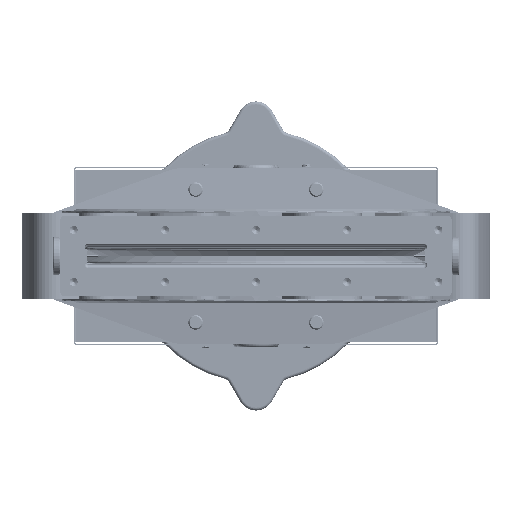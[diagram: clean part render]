
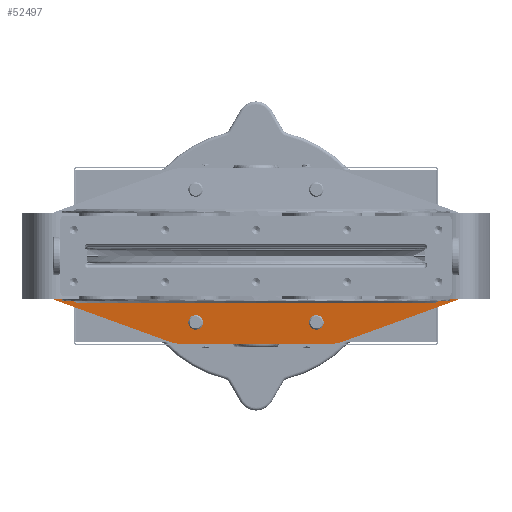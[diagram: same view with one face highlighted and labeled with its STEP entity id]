
A CAD part, front view. The second image highlights one B-rep face of the part: STEP entity #52497.
In plain terms, the highlighted planar face has unit normal (0, -0.996, -0.087).
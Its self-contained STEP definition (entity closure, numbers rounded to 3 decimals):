
#788=ELLIPSE('',#57474,38.145,38.);
#789=ELLIPSE('',#57475,38.145,38.);
#790=ELLIPSE('',#57476,15.057,15.);
#791=ELLIPSE('',#57477,15.057,15.);
#792=ELLIPSE('',#57478,15.057,15.);
#793=ELLIPSE('',#57479,15.057,15.);
#794=ELLIPSE('',#57480,6.023,6.);
#795=ELLIPSE('',#57481,6.544,6.494);
#796=ELLIPSE('',#57482,6.023,6.);
#797=ELLIPSE('',#57483,6.544,6.494);
#1761=B_SPLINE_CURVE_WITH_KNOTS('',3,(#96685,#96686,#96687,#96688,#96689,
#96690),.UNSPECIFIED.,.F.,.F.,(4,2,4),(8.437,8.468,
8.474),.UNSPECIFIED.);
#1762=B_SPLINE_CURVE_WITH_KNOTS('',3,(#96698,#96699,#96700,#96701,#96702,
#96703),.UNSPECIFIED.,.F.,.F.,(4,2,4),(20.094,20.1,
20.131),.UNSPECIFIED.);
#2256=FACE_BOUND('',#9582,.T.);
#2257=FACE_BOUND('',#9583,.T.);
#3368=PLANE('',#57473);
#6171=FACE_OUTER_BOUND('',#9581,.T.);
#9581=EDGE_LOOP('',(#40983,#40984,#40985,#40986,#40987,#40988,#40989,#40990,
#40991,#40992,#40993,#40994,#40995,#40996,#40997,#40998));
#9582=EDGE_LOOP('',(#40999,#41000));
#9583=EDGE_LOOP('',(#41001,#41002));
#12680=LINE('',#95216,#15393);
#12685=LINE('',#95226,#15398);
#12688=LINE('',#95234,#15401);
#12865=LINE('',#96592,#15578);
#12884=LINE('',#96694,#15597);
#12885=LINE('',#96704,#15598);
#12886=LINE('',#96709,#15599);
#12887=LINE('',#96713,#15600);
#15393=VECTOR('',#67881,1.);
#15398=VECTOR('',#67888,1.);
#15401=VECTOR('',#67895,1.);
#15578=VECTOR('',#68502,1.);
#15597=VECTOR('',#68583,1.);
#15598=VECTOR('',#68586,1.);
#15599=VECTOR('',#68591,1.);
#15600=VECTOR('',#68594,1.);
#23284=VERTEX_POINT('',#95213);
#23285=VERTEX_POINT('',#95215);
#23288=VERTEX_POINT('',#95223);
#23289=VERTEX_POINT('',#95225);
#23292=VERTEX_POINT('',#95232);
#23633=VERTEX_POINT('',#96590);
#23634=VERTEX_POINT('',#96591);
#23665=VERTEX_POINT('',#96684);
#23666=VERTEX_POINT('',#96691);
#23667=VERTEX_POINT('',#96693);
#23668=VERTEX_POINT('',#96695);
#23669=VERTEX_POINT('',#96697);
#23670=VERTEX_POINT('',#96706);
#23671=VERTEX_POINT('',#96708);
#23672=VERTEX_POINT('',#96710);
#23673=VERTEX_POINT('',#96712);
#23674=VERTEX_POINT('',#96715);
#23675=VERTEX_POINT('',#96716);
#23676=VERTEX_POINT('',#96719);
#23677=VERTEX_POINT('',#96720);
#29521=EDGE_CURVE('',#23285,#23284,#12680,.T.);
#29526=EDGE_CURVE('',#23288,#23289,#12685,.T.);
#29530=EDGE_CURVE('',#23292,#23288,#12688,.T.);
#29896=EDGE_CURVE('',#23633,#23634,#12865,.F.);
#29935=EDGE_CURVE('',#23292,#23665,#1761,.T.);
#29936=EDGE_CURVE('',#23665,#23666,#788,.F.);
#29937=EDGE_CURVE('',#23666,#23667,#12884,.T.);
#29938=EDGE_CURVE('',#23667,#23668,#789,.F.);
#29939=EDGE_CURVE('',#23668,#23669,#1762,.T.);
#29940=EDGE_CURVE('',#23285,#23669,#12885,.T.);
#29941=EDGE_CURVE('',#23284,#23633,#790,.T.);
#29942=EDGE_CURVE('',#23634,#23670,#791,.T.);
#29943=EDGE_CURVE('',#23670,#23671,#12886,.T.);
#29944=EDGE_CURVE('',#23671,#23672,#792,.T.);
#29945=EDGE_CURVE('',#23672,#23673,#12887,.F.);
#29946=EDGE_CURVE('',#23673,#23289,#793,.T.);
#29947=EDGE_CURVE('',#23674,#23675,#794,.T.);
#29948=EDGE_CURVE('',#23675,#23674,#795,.T.);
#29949=EDGE_CURVE('',#23676,#23677,#796,.T.);
#29950=EDGE_CURVE('',#23677,#23676,#797,.T.);
#40983=ORIENTED_EDGE('',*,*,#29530,.F.);
#40984=ORIENTED_EDGE('',*,*,#29935,.T.);
#40985=ORIENTED_EDGE('',*,*,#29936,.T.);
#40986=ORIENTED_EDGE('',*,*,#29937,.T.);
#40987=ORIENTED_EDGE('',*,*,#29938,.T.);
#40988=ORIENTED_EDGE('',*,*,#29939,.T.);
#40989=ORIENTED_EDGE('',*,*,#29940,.F.);
#40990=ORIENTED_EDGE('',*,*,#29521,.T.);
#40991=ORIENTED_EDGE('',*,*,#29941,.T.);
#40992=ORIENTED_EDGE('',*,*,#29896,.T.);
#40993=ORIENTED_EDGE('',*,*,#29942,.T.);
#40994=ORIENTED_EDGE('',*,*,#29943,.T.);
#40995=ORIENTED_EDGE('',*,*,#29944,.T.);
#40996=ORIENTED_EDGE('',*,*,#29945,.T.);
#40997=ORIENTED_EDGE('',*,*,#29946,.T.);
#40998=ORIENTED_EDGE('',*,*,#29526,.F.);
#40999=ORIENTED_EDGE('',*,*,#29947,.T.);
#41000=ORIENTED_EDGE('',*,*,#29948,.T.);
#41001=ORIENTED_EDGE('',*,*,#29949,.T.);
#41002=ORIENTED_EDGE('',*,*,#29950,.T.);
#52497=ADVANCED_FACE('',(#6171,#2256,#2257),#3368,.T.);
#57473=AXIS2_PLACEMENT_3D('',#96683,#68579,#68580);
#57474=AXIS2_PLACEMENT_3D('',#96692,#68581,#68582);
#57475=AXIS2_PLACEMENT_3D('',#96696,#68584,#68585);
#57476=AXIS2_PLACEMENT_3D('',#96705,#68587,#68588);
#57477=AXIS2_PLACEMENT_3D('',#96707,#68589,#68590);
#57478=AXIS2_PLACEMENT_3D('',#96711,#68592,#68593);
#57479=AXIS2_PLACEMENT_3D('',#96714,#68595,#68596);
#57480=AXIS2_PLACEMENT_3D('',#96717,#68597,#68598);
#57481=AXIS2_PLACEMENT_3D('',#96718,#68599,#68600);
#57482=AXIS2_PLACEMENT_3D('',#96721,#68601,#68602);
#57483=AXIS2_PLACEMENT_3D('',#96722,#68603,#68604);
#67881=DIRECTION('',(0.,0.087,-0.996));
#67888=DIRECTION('',(0.,0.087,-0.996));
#67895=DIRECTION('',(1.,0.,0.));
#68502=DIRECTION('',(-0.939,-0.03,0.342));
#68579=DIRECTION('center_axis',(0.,-0.996,-0.087));
#68580=DIRECTION('ref_axis',(0.,-0.087,0.996));
#68581=DIRECTION('center_axis',(0.,-0.996,-0.087));
#68582=DIRECTION('ref_axis',(0.,-0.087,0.996));
#68583=DIRECTION('',(-1.,0.,0.));
#68584=DIRECTION('center_axis',(0.,-0.996,-0.087));
#68585=DIRECTION('ref_axis',(0.,-0.087,0.996));
#68586=DIRECTION('',(1.,0.,0.));
#68587=DIRECTION('center_axis',(0.,-0.996,-0.087));
#68588=DIRECTION('ref_axis',(0.,-0.087,0.996));
#68589=DIRECTION('center_axis',(0.,-0.996,-0.087));
#68590=DIRECTION('ref_axis',(0.,0.087,-0.996));
#68591=DIRECTION('',(1.,0.,0.));
#68592=DIRECTION('center_axis',(0.,-0.996,-0.087));
#68593=DIRECTION('ref_axis',(0.,-0.087,0.996));
#68594=DIRECTION('',(-0.939,0.03,-0.342));
#68595=DIRECTION('center_axis',(0.,-0.996,-0.087));
#68596=DIRECTION('ref_axis',(0.,0.087,-0.996));
#68597=DIRECTION('center_axis',(0.,0.996,0.087));
#68598=DIRECTION('ref_axis',(0.,-0.087,0.996));
#68599=DIRECTION('center_axis',(0.,0.996,0.087));
#68600=DIRECTION('ref_axis',(0.,-0.087,
0.996));
#68601=DIRECTION('center_axis',(0.,0.996,0.087));
#68602=DIRECTION('ref_axis',(0.,-0.087,0.996));
#68603=DIRECTION('center_axis',(0.,0.996,0.087));
#68604=DIRECTION('ref_axis',(0.,-0.087,
0.996));
#95213=CARTESIAN_POINT('',(-177.,217.594,-22.142));
#95215=CARTESIAN_POINT('',(-177.,217.,-15.35));
#95216=CARTESIAN_POINT('',(-177.,222.137,-74.063));
#95223=CARTESIAN_POINT('',(177.,217.,-15.35));
#95225=CARTESIAN_POINT('',(177.,217.594,-22.142));
#95226=CARTESIAN_POINT('',(177.,217.,-15.35));
#95232=CARTESIAN_POINT('',(172.578,217.,-15.35));
#95234=CARTESIAN_POINT('',(-368621.5,217.,-15.35));
#96590=CARTESIAN_POINT('',(-167.13,218.827,-36.238));
#96591=CARTESIAN_POINT('',(-69.985,221.921,-71.596));
#96592=CARTESIAN_POINT('',(-325236.231,-10132.435,118279.239));
#96683=CARTESIAN_POINT('Origin',(-368621.5,217.,-15.35));
#96684=CARTESIAN_POINT('',(172.196,216.994,-15.28));
#96685=CARTESIAN_POINT('Ctrl Pts',(172.578,217.,-15.35));
#96686=CARTESIAN_POINT('Ctrl Pts',(172.474,217.,-15.35));
#96687=CARTESIAN_POINT('Ctrl Pts',(172.351,216.998,-15.332));
#96688=CARTESIAN_POINT('Ctrl Pts',(172.234,216.995,-15.294));
#96689=CARTESIAN_POINT('Ctrl Pts',(172.215,216.995,-15.288));
#96690=CARTESIAN_POINT('Ctrl Pts',(172.196,216.994,-15.28));
#96691=CARTESIAN_POINT('',(137.,219.065,-38.954));
#96692=CARTESIAN_POINT('Origin',(137.,215.741,-0.954));
#96693=CARTESIAN_POINT('',(-137.,219.065,-38.954));
#96694=CARTESIAN_POINT('',(-368621.5,219.065,-38.954));
#96695=CARTESIAN_POINT('',(-172.196,216.994,-15.28));
#96696=CARTESIAN_POINT('Origin',(-137.,215.741,-0.954));
#96697=CARTESIAN_POINT('',(-172.578,217.,-15.35));
#96698=CARTESIAN_POINT('Ctrl Pts',(-172.196,216.994,-15.28));
#96699=CARTESIAN_POINT('Ctrl Pts',(-172.215,216.995,-15.288));
#96700=CARTESIAN_POINT('Ctrl Pts',(-172.234,216.995,-15.294));
#96701=CARTESIAN_POINT('Ctrl Pts',(-172.351,216.998,-15.332));
#96702=CARTESIAN_POINT('Ctrl Pts',(-172.474,217.,-15.35));
#96703=CARTESIAN_POINT('Ctrl Pts',(-172.578,217.,-15.35));
#96704=CARTESIAN_POINT('',(-368621.5,217.,-15.35));
#96705=CARTESIAN_POINT('Origin',(-162.,217.594,-22.142));
#96706=CARTESIAN_POINT('',(-64.855,222.,-72.5));
#96707=CARTESIAN_POINT('Origin',(-64.855,220.688,-57.5));
#96708=CARTESIAN_POINT('',(64.855,222.,-72.5));
#96709=CARTESIAN_POINT('',(-368621.5,222.,-72.5));
#96710=CARTESIAN_POINT('',(69.985,221.921,-71.596));
#96711=CARTESIAN_POINT('Origin',(64.855,220.688,-57.5));
#96712=CARTESIAN_POINT('',(167.13,218.827,-36.238));
#96713=CARTESIAN_POINT('',(-325183.349,10579.05,-118454.128));
#96714=CARTESIAN_POINT('Origin',(162.,217.594,-22.142));
#96715=CARTESIAN_POINT('',(-47.304,220.,-49.64));
#96716=CARTESIAN_POINT('',(-52.696,220.,-49.64));
#96717=CARTESIAN_POINT('Origin',(-50.,220.469,-55.));
#96718=CARTESIAN_POINT('Origin',(-50.,220.519,-55.57));
#96719=CARTESIAN_POINT('',(52.696,220.,-49.64));
#96720=CARTESIAN_POINT('',(47.304,220.,-49.64));
#96721=CARTESIAN_POINT('Origin',(50.,220.469,-55.));
#96722=CARTESIAN_POINT('Origin',(50.,220.519,-55.57));
